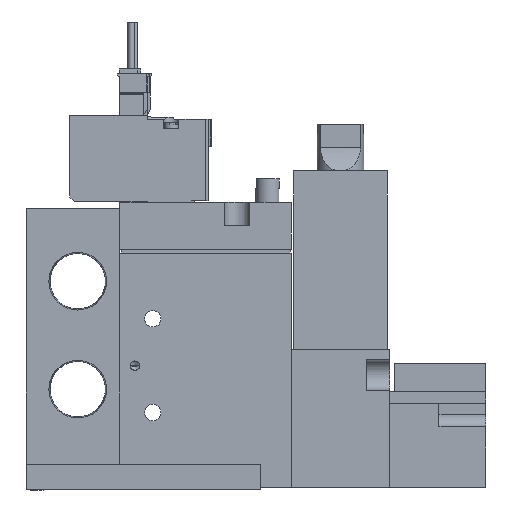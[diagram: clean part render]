
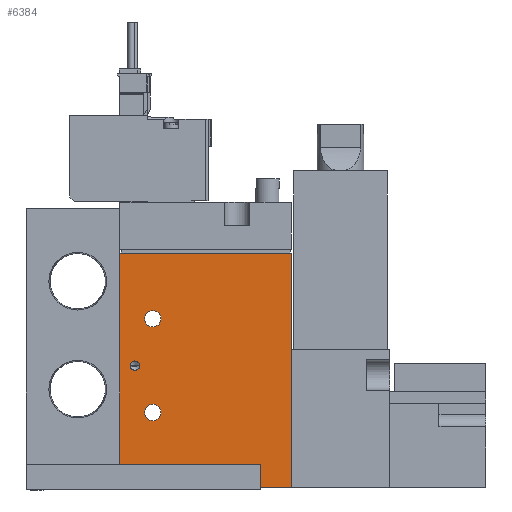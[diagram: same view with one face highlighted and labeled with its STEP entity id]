
A CAD part, left-side view. The second image highlights one B-rep face of the part: STEP entity #6384.
In plain terms, the highlighted planar face has unit normal (-1, 0, 0) as drawn and (1, 0, 0) by its records, which use the part's own axes.
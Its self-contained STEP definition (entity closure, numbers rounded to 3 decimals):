
#6384=ADVANCED_FACE('',(#10086,#10087,#10088,#10089),#10090,.F.);
#10086=FACE_BOUND('',#16678,.T.);
#10087=FACE_BOUND('',#16679,.T.);
#10088=FACE_BOUND('',#16680,.T.);
#10089=FACE_OUTER_BOUND('',#16681,.T.);
#10090=PLANE('',#16682);
#16678=EDGE_LOOP('',(#25978));
#16679=EDGE_LOOP('',(#25979));
#16680=EDGE_LOOP('',(#25980));
#16681=EDGE_LOOP('',(#25981,#25982,#25983,#25984));
#16682=AXIS2_PLACEMENT_3D('',#25985,#25986,#25987);
#25978=ORIENTED_EDGE('',*,*,#46346,.F.);
#25979=ORIENTED_EDGE('',*,*,#46343,.T.);
#25980=ORIENTED_EDGE('',*,*,#46345,.T.);
#25981=ORIENTED_EDGE('',*,*,#46347,.T.);
#25982=ORIENTED_EDGE('',*,*,#46348,.F.);
#25983=ORIENTED_EDGE('',*,*,#46349,.F.);
#25984=ORIENTED_EDGE('',*,*,#46350,.T.);
#25985=CARTESIAN_POINT('',(8.5,-19.444,50.0));
#25986=DIRECTION('',(-1.0,0.0,0.0));
#25987=DIRECTION('',(0.0,0.0,1.0));
#46343=EDGE_CURVE('',#54399,#54399,#54400,.T.);
#46345=EDGE_CURVE('',#54403,#54403,#54404,.T.);
#46346=EDGE_CURVE('',#54405,#54405,#54406,.T.);
#46347=EDGE_CURVE('',#54407,#54408,#54409,.T.);
#46348=EDGE_CURVE('',#54410,#54408,#54411,.T.);
#46349=EDGE_CURVE('',#54412,#54410,#54413,.T.);
#46350=EDGE_CURVE('',#54412,#54407,#54414,.T.);
#54399=VERTEX_POINT('',#67952);
#54400=CIRCLE('',#67953,1.75);
#54403=VERTEX_POINT('',#67956);
#54404=CIRCLE('',#67957,1.75);
#54405=VERTEX_POINT('',#67958);
#54406=CIRCLE('',#67959,1.0);
#54407=VERTEX_POINT('',#67960);
#54408=VERTEX_POINT('',#67961);
#54409=LINE('',#67962,#67963);
#54410=VERTEX_POINT('',#67964);
#54411=LINE('',#67965,#67966);
#54412=VERTEX_POINT('',#67967);
#54413=LINE('',#67968,#67969);
#54414=LINE('',#67970,#67971);
#67952=CARTESIAN_POINT('',(8.5,-10.694,36.0));
#67953=AXIS2_PLACEMENT_3D('',#84899,#84900,#84901);
#67956=CARTESIAN_POINT('',(8.5,-10.694,16.0));
#67957=AXIS2_PLACEMENT_3D('',#84905,#84906,#84907);
#67958=CARTESIAN_POINT('',(8.5,-17.244,26.0));
#67959=AXIS2_PLACEMENT_3D('',#84908,#84909,#84910);
#67960=CARTESIAN_POINT('',(8.5,-19.444,0.0));
#67961=CARTESIAN_POINT('',(8.5,17.056,0.0));
#67962=CARTESIAN_POINT('',(8.5,-19.444,0.0));
#67963=VECTOR('',#84911,1.0);
#67964=CARTESIAN_POINT('',(8.5,17.056,50.0));
#67965=CARTESIAN_POINT('',(8.5,17.056,50.0));
#67966=VECTOR('',#84912,1.0);
#67967=CARTESIAN_POINT('',(8.5,-19.444,50.0));
#67968=CARTESIAN_POINT('',(8.5,-19.444,50.0));
#67969=VECTOR('',#84913,1.0);
#67970=CARTESIAN_POINT('',(8.5,-19.444,50.0));
#67971=VECTOR('',#84914,1.0);
#84899=CARTESIAN_POINT('',(8.5,-12.444,36.0));
#84900=DIRECTION('',(-1.0,0.0,0.0));
#84901=DIRECTION('',(0.0,1.0,0.0));
#84905=CARTESIAN_POINT('',(8.5,-12.444,16.0));
#84906=DIRECTION('',(-1.0,0.0,0.0));
#84907=DIRECTION('',(0.0,1.0,0.0));
#84908=CARTESIAN_POINT('',(8.5,-16.244,26.0));
#84909=DIRECTION('',(1.0,0.,0.0));
#84910=DIRECTION('',(0.,-1.0,0.0));
#84911=DIRECTION('',(0.0,1.0,0.0));
#84912=DIRECTION('',(0.0,0.0,-1.0));
#84913=DIRECTION('',(0.0,1.0,0.0));
#84914=DIRECTION('',(0.0,0.0,-1.0));
